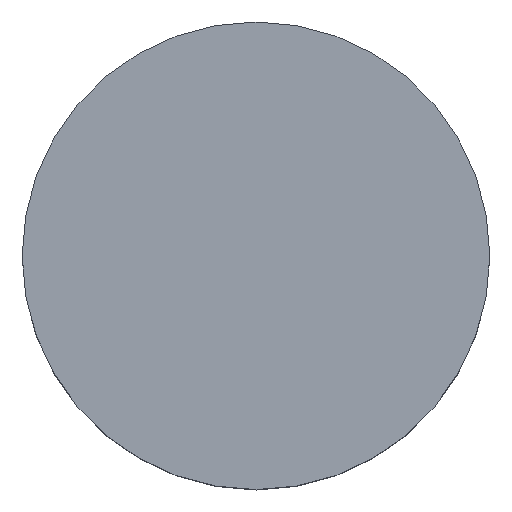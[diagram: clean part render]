
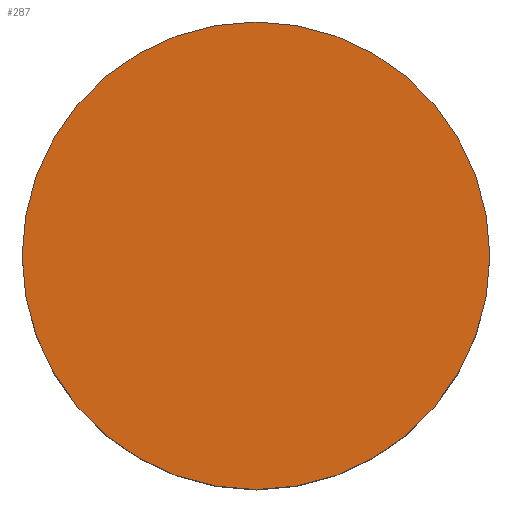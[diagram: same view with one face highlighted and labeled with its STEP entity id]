
A CAD part, top view. The second image highlights one B-rep face of the part: STEP entity #287.
In plain terms, the highlighted planar face has unit normal (0, 0, 1).
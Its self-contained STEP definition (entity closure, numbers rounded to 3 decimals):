
#32=PLANE('',#354);
#54=FACE_OUTER_BOUND('',#77,.T.);
#77=EDGE_LOOP('',(#246));
#131=CIRCLE('',#353,21.5);
#153=VERTEX_POINT('',#532);
#186=EDGE_CURVE('',#153,#153,#131,.T.);
#246=ORIENTED_EDGE('',*,*,#186,.T.);
#287=ADVANCED_FACE('',(#54),#32,.T.);
#353=AXIS2_PLACEMENT_3D('',#533,#451,#452);
#354=AXIS2_PLACEMENT_3D('',#535,#454,#455);
#451=DIRECTION('center_axis',(0.,0.,1.));
#452=DIRECTION('ref_axis',(-1.,0.,0.));
#454=DIRECTION('center_axis',(0.,0.,1.));
#455=DIRECTION('ref_axis',(1.,0.,0.));
#532=CARTESIAN_POINT('',(21.5,0.,23.));
#533=CARTESIAN_POINT('Origin',(0.,0.,23.));
#535=CARTESIAN_POINT('Origin',(0.,0.,
23.));
